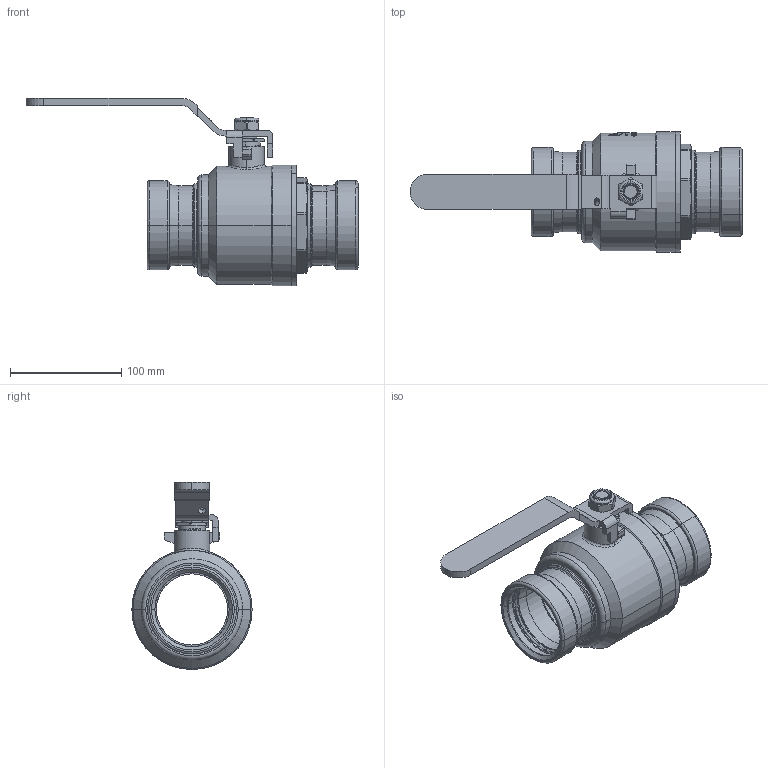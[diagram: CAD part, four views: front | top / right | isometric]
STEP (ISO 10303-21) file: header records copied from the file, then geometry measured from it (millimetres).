
FILE_DESCRIPTION(('Open CASCADE Model'),'2;1');
FILE_NAME('Open CASCADE Shape Model','2021-12-14T09:46:51',('Author'),( 'Open CASCADE'),'Open CASCADE STEP processor 7.3','Open CASCADE 7.3' ,'Unknown');
FILE_SCHEMA(('AUTOMOTIVE_DESIGN { 1 0 10303 214 1 1 1 1 }'));
Length unit declared in the file: millimetre
Products named in the file (15): Open CASCADE STEP translator 7.3 1; Open CASCADE STEP translator 7.3 1.1; Open CASCADE STEP translator 7.3 1.2; Open CASCADE STEP translator 7.3 1.3; Open CASCADE STEP translator 7.3 1.4; Open CASCADE STEP translator 7.3 1.5; Open CASCADE STEP translator 7.3 1.6; Open CASCADE STEP translator 7.3 1.7; Open CASCADE STEP translator 7.3 1.8; Open CASCADE STEP translator 7.3 1.9; Open CASCADE STEP translator 7.3 1.10; Open CASCADE STEP translator 7.3 1.11; Open CASCADE STEP translator 7.3 1.12; Open CASCADE STEP translator 7.3 1.13; Open CASCADE STEP translator 7.3 1.14
Assembly tree (14 placements, depth 2):
  Open CASCADE STEP translator 7.3 1
    Open CASCADE STEP translator 7.3 1.1
    Open CASCADE STEP translator 7.3 1.2
    Open CASCADE STEP translator 7.3 1.3
    Open CASCADE STEP translator 7.3 1.4
    Open CASCADE STEP translator 7.3 1.5
    Open CASCADE STEP translator 7.3 1.6
    Open CASCADE STEP translator 7.3 1.7
    Open CASCADE STEP translator 7.3 1.8
    Open CASCADE STEP translator 7.3 1.9
    Open CASCADE STEP translator 7.3 1.10
    Open CASCADE STEP translator 7.3 1.11
    Open CASCADE STEP translator 7.3 1.12
    Open CASCADE STEP translator 7.3 1.13
    Open CASCADE STEP translator 7.3 1.14
Bounding box: 298.3 x 108 x 168.1 mm (x, y, z)
Volume: 462674.4 mm3; surface area: 257735.1 mm2
Topology: 14 solids, 15 shells, 756 faces, 1927 edges, 1228 vertices
Faces by surface type: cylinder 233, plane 206, bspline 138, cone 97, torus 74, sphere 8
Entity records: 120867 total; most frequent: CARTESIAN_POINT 85913, DIRECTION 5489, ORIENTED_EDGE 3846, PCURVE 3846, DEFINITIONAL_REPRESENTATION 3846, LINE 2729, VECTOR 2729, EDGE_CURVE 1923
